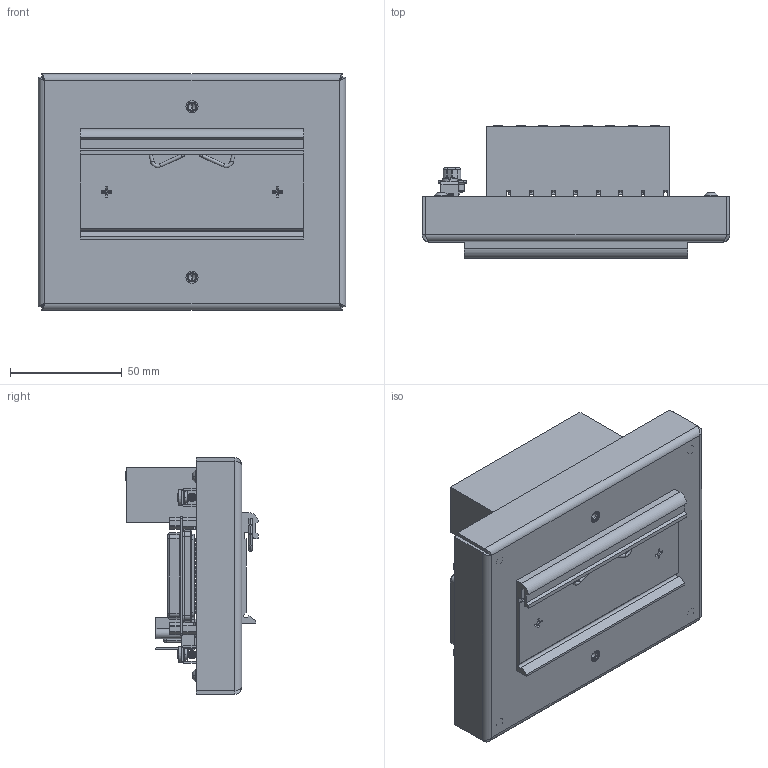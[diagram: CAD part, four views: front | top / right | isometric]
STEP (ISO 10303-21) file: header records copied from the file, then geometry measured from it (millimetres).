
FILE_DESCRIPTION((''),'2;1');
FILE_NAME('CU_TB-12398-12399','2018-08-14T',('dkendric'),(''),'CREO PARAMETRIC BY PTC INC, 2017480','CREO PARAMETRIC BY PTC INC, 2017480','');
FILE_SCHEMA(('AUTOMOTIVE_DESIGN { 1 0 10303 214 1 1 1 1 }'));
Products named in the file (1): CU_TB-12398-12399
Bounding box: 137.36 x 59.38 x 105.61 mm (x, y, z)
Volume: 148955.3 mm3; surface area: 106414.9 mm2
Topology: 2 solids, 7 shells, 3091 faces, 8105 edges, 5215 vertices
Faces by surface type: plane 1950, cylinder 761, cone 250, torus 54, bspline 52, sphere 24
Entity records: 132763 total; most frequent: CARTESIAN_POINT 41783, ORIENTED_EDGE 16114, DIRECTION 15180, EDGE_CURVE 8057, VECTOR 5860, LINE 5860, VERTEX_POINT 5253, AXIS2_PLACEMENT_3D 4660
